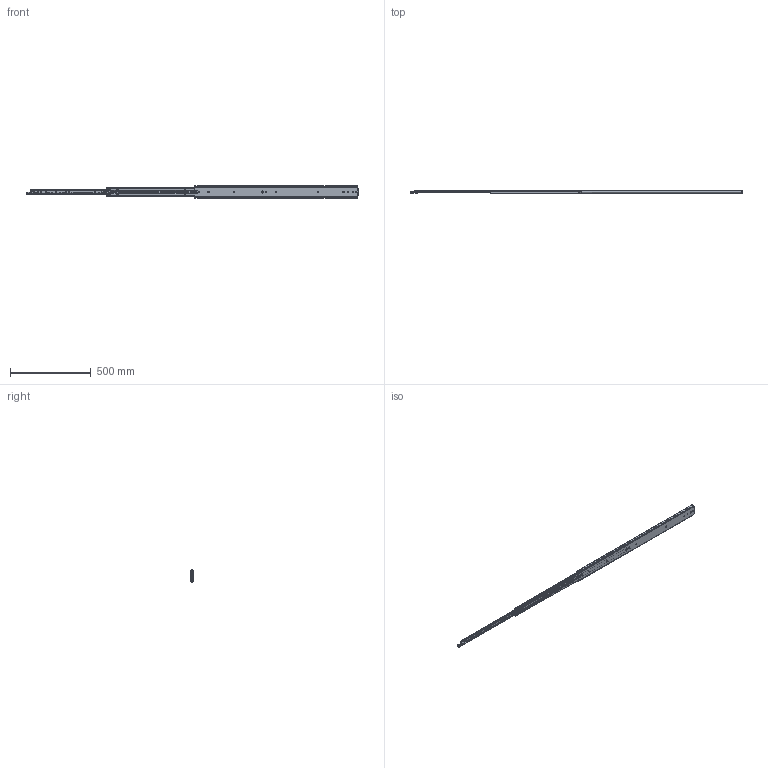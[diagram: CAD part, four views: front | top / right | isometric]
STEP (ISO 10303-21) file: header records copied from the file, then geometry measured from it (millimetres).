
FILE_DESCRIPTION((''),'2;1');
FILE_NAME('DG-76-3S-40ZUO_ASM','2023-05-10T',('jishu015'),(''),'PRO/ENGINEER BY PARAMETRIC TECHNOLOGY CORPORATION, 2010280','PRO/ENGINEER BY PARAMETRIC TECHNOLOGY CORPORATION, 2010280','');
FILE_SCHEMA(('CONFIG_CONTROL_DESIGN'));
Products named in the file (29): KP-76-04WAIKE-1816_________; 1076-WAIKEZIDANJIAO16_________; WAIK16__________ASM; 1076XIAOZHUTIAO-22516_________; 16_________; 1076XIAOZHUTIAO-17516__________ASM; KP-76-04ZHONGGUI1816_________; 76CHANGGUIZHONGGUIJIAO1621_; 3X6WODIN16_________; ZHONGGUIBAIKOU16_________; PJ-76-30________; PJ-76-03________; 76-XIAOZHUJIA-11________; GANGZHU-XIAO________; ZHUJIA-XIAO_________ASM; ZHONGGUI6__________ASM; KP-76-04NEIGUI1816_________; PJ-76-31________; DAOGPIAN16_________; 1053-3SBANJ01________; JIAO-11________; 76XINSUOKOU________; PJ-338________; PJ-356________; PJ-357________; PJ-336________; M4X4________; NEIGUI16__________ASM; DG-76-3S-40ZUO_ASM
Assembly tree (83 placements, depth 4):
  DG-76-3S-40ZUO_ASM
    WAIK16__________ASM
      KP-76-04WAIKE-1816_________
      1076-WAIKEZIDANJIAO16_________  x2
    1076XIAOZHUTIAO-17516__________ASM  x2
      1076XIAOZHUTIAO-22516_________
      16_________
    ZHONGGUI6__________ASM
      KP-76-04ZHONGGUI1816_________
      76CHANGGUIZHONGGUIJIAO1621_
      3X6WODIN16_________
      ZHONGGUIBAIKOU16_________
      PJ-76-30________
      PJ-76-03________
      ZHUJIA-XIAO_________ASM
        76-XIAOZHUJIA-11________
        GANGZHU-XIAO________  x38
    NEIGUI16__________ASM
      KP-76-04NEIGUI1816_________
      PJ-76-31________
      DAOGPIAN16_________
      1053-3SBANJ01________
      JIAO-11________
      76XINSUOKOU________
      PJ-338________
      PJ-356________
      PJ-357________
      PJ-336________
      M4X4________
Bounding box: 2057.92 x 20.7 x 75.3 mm (x, y, z)
Volume: 668026.5 mm3; surface area: 644466.2 mm2
Topology: 96 solids, 96 shells, 2397 faces, 7254 edges, 4588 vertices
Faces by surface type: plane 1231, cylinder 888, sphere 151, bspline 60, cone 28, extrusion 23, torus 16
Entity records: 77800 total; most frequent: CARTESIAN_POINT 20854, ORIENTED_EDGE 12468, DIRECTION 11265, EDGE_CURVE 6234, VERTEX_POINT 4060, AXIS2_PLACEMENT_3D 3892, VECTOR 3481, LINE 3458
